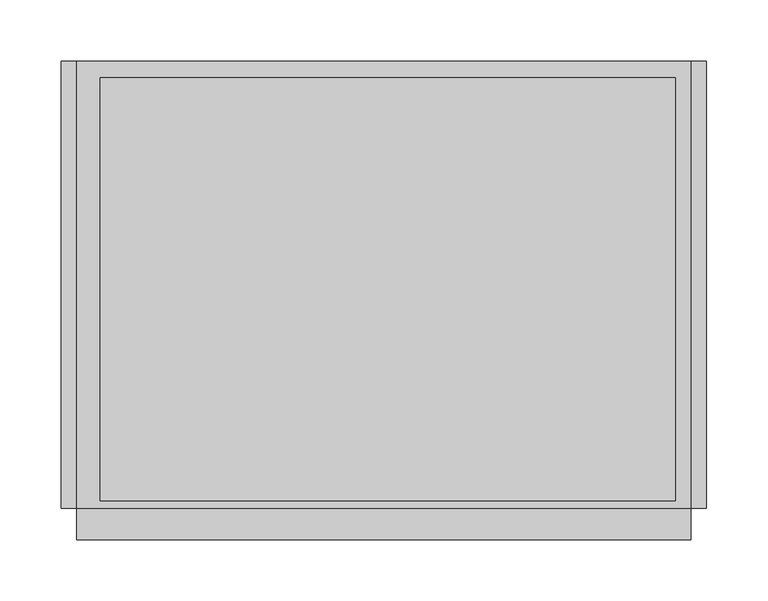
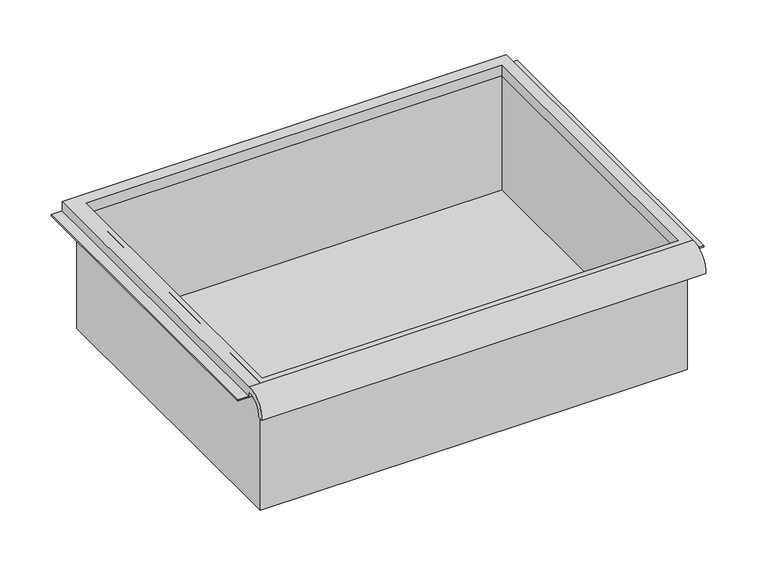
"""IFC4 building model written with IfcOpenShell, lengths in millimetres: furniture geometry."""

from ifc_helpers import new_model, si_unit, frame, origin, place, context, project, spatial, polyline, circle_curve, faceted_brep, source, transform, mapped, element, save
from ifc_brep_helpers import plane_surface, cylinder_surface, revolved_surface, advanced_brep


def furniture_4659394c(model_context):
    return source(origin(), model_context, "Body", "SolidModel", [
        advanced_brep(
        [(263.7474999, -195.297482, 510.3849518), (263.7474999, -188.9125, 510.3849518), (263.7474999, -169.8625, 528.646425), (263.7474999, -169.8625, 522.2964246), (263.7474999, 195.2625, 522.2964246), (263.7474999, 195.2625, 534.996425), (263.7474999, -169.8625, 534.996425), (-237.9025001, -195.297482, 510.3849518), (-237.9025001, -169.8625, 534.996425), (-237.9025001, 195.2625, 534.996425), (-237.9025001, 195.2625, 522.2964246), (-237.9025001, -169.8625, 522.2964246), (-237.9025001, -169.8625, 528.646425), (-237.9025001, -188.9125, 510.3849518), (251.0474878, 181.9275, 522.2964246), (-218.8095642, 181.9275, 522.2964246), (-218.8095642, -163.5125, 522.2964246), (251.0474878, -163.5125, 522.2964246), (-218.8095642, 181.9275, 534.996425), (251.0474878, 181.9275, 534.996425), (251.0474878, -163.5125, 534.996425), (-218.8095642, -163.5125, 534.996425)],
        [
            (0, 1),
            (1, 2, circle_curve(frame((263.7474999, -172.3404634, 512.1643622), z_axis=(-1.0, 0.0, 0.0), x_axis=(0.0, 1.0, 0.0)), 16.6672942)),
            (2, 3),
            (3, 4),
            (4, 5),
            (5, 6),
            (6, 0, circle_curve(frame((263.7474999, -172.4601678, 512.2322522), z_axis=(1.0, 0.0, 0.0), x_axis=(0.0, 1.0, 0.0)), 22.9119061)),
            (7, 8, circle_curve(frame((-237.9025001, -172.4601678, 512.2322522), z_axis=(-1.0, 0.0, 0.0), x_axis=(0.0, 1.0, 0.0)), 22.9119061)),
            (8, 9),
            (9, 10),
            (10, 11),
            (11, 12),
            (12, 13, circle_curve(frame((-237.9025001, -172.3404634, 512.1643622), z_axis=(1.0, 0.0, 0.0), x_axis=(0.0, 1.0, 0.0)), 16.6672942)),
            (13, 7),
            (0, 7),
            (13, 1),
            (12, 2),
            (11, 3),
            (10, 4),
            (14, 15),
            (15, 16),
            (16, 17),
            (17, 14),
            (9, 5),
            (8, 6),
            (18, 19),
            (19, 20),
            (20, 21),
            (21, 18),
            (14, 19),
            (18, 15),
            (21, 16),
            (20, 17),
        ],
        [
            plane_surface(frame((263.7474999, -195.297482, 510.3849518), z_axis=(1.0, 0.0, 0.0), x_axis=(0.0, 1.0, 0.0))),
            plane_surface(frame((-237.9025001, -195.297482, 510.3849518), z_axis=(-1.0, 0.0, 0.0), x_axis=(0.0, -1.0, 0.0))),
            plane_surface(frame((263.7474999, -195.297482, 510.3849518), z_axis=(0.0, 0.0, -1.0), x_axis=(-1.0, 0.0, 0.0))),
            revolved_surface(polyline([(-237.9025001, -155.67316920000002, 512.1643622), (263.7474999, -155.67316920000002, 512.1643622)]), (-237.9025001, -172.3404634, 512.1643622), (-1.0, 0.0, 0.0)),
            plane_surface(frame((263.7474999, -169.8625, 528.646425), z_axis=(0.0, -1.0, 0.0), x_axis=(-1.0, 0.0, 0.0))),
            plane_surface(frame((263.7474999, -169.8625, 522.2964246), z_axis=(0.0, 0.0, -1.0), x_axis=(-1.0, 0.0, 0.0))),
            plane_surface(frame((263.7474999, 195.2625, 522.2964246), z_axis=(0.0, 1.0, 0.0), x_axis=(-1.0, 0.0, 0.0))),
            plane_surface(frame((263.7474999, 195.2625, 534.996425), z_axis=(0.0, 0.0, 1.0), x_axis=(-1.0, 0.0, 0.0))),
            cylinder_surface(frame((-237.9025001, -172.4601678, 512.2322522), z_axis=(1.0, 0.0, 0.0), x_axis=(0.0, 1.0, 0.0)), 22.9119061),
            plane_surface(frame((251.0474878, 181.9275, 534.996425), z_axis=(0.0, -1.0, 0.0), x_axis=(0.0, 0.0, -1.0))),
            plane_surface(frame((-218.8095642, 181.9275, 534.996425), z_axis=(1.0, 0.0, 0.0), x_axis=(0.0, 0.0, -1.0))),
            plane_surface(frame((-218.8095642, -163.5125, 534.996425), z_axis=(0.0, 1.0, 0.0), x_axis=(0.0, 0.0, -1.0))),
            plane_surface(frame((251.0474878, -163.5125, 534.996425), z_axis=(-1.0, 0.0, 0.0), x_axis=(0.0, 0.0, -1.0))),
        ],
        [
            (0, [[1, 2, 3, 4, 5, 6, 7]]),
            (1, [[8, 9, 10, 11, 12, 13, 14]]),
            (2, [[-1, 15, -14, 16]]),
            (3, [[-2, -16, -13, 17]]),
            (4, [[-3, -17, -12, 18]]),
            (5, [[-4, -18, -11, 19], [20, 21, 22, 23]]),
            (6, [[-5, -19, -10, 24]]),
            (7, [[-6, -24, -9, 25], [26, 27, 28, 29]]),
            (8, [[-7, -25, -8, -15]]),
            (9, [[30, -26, 31, -20]]),
            (10, [[-31, -29, 32, -21]]),
            (11, [[-32, -28, 33, -22]]),
            (12, [[-30, -23, -33, -27]]),
        ],
    ),
        faceted_brep([(-225.2025001, -169.8625, 382.596425), (257.3974878, -169.8625, 382.596425), (257.3974878, -169.8625, 534.996425), (-225.2025001, -169.8625, 534.996425), (-225.2025001, 188.9125, 382.596425), (-225.2025001, 188.9125, 534.996425), (257.3974878, 188.9125, 534.996425), (257.3974878, 188.9125, 382.596425), (-218.8095642, 181.9275, 534.996425), (251.0474878, 181.9275, 534.996425), (251.0474878, -163.5125, 534.996425), (-218.8095642, -163.5125, 534.996425), (251.0474878, 181.9275, 385.771425), (-218.8095642, 181.9275, 385.771425), (-218.8095642, -163.5125, 385.771425), (251.0474878, -163.5125, 385.771425)], [[[0, 1, 2, 3]], [[4, 5, 6, 7]], [[1, 0, 4, 7]], [[2, 1, 7, 6]], [[3, 2, 6, 5], [8, 9, 10, 11]], [[0, 3, 5, 4]], [[12, 13, 14, 15]], [[13, 12, 9, 8]], [[14, 13, 8, 11]], [[15, 14, 11, 10]], [[12, 15, 10, 9]]]),
        faceted_brep([(-250.6025001, 195.2625, 522.2964246), (-250.6025001, 195.2625, 523.8839246), (-231.5525001, 195.2625, 523.8839246), (-231.5525001, 195.2625, 522.2964246), (-250.6025001, -169.8625, 522.2964246), (-231.5525001, -169.8625, 522.2964246), (-231.5525001, -169.8625, 523.8839246), (-250.6025001, -169.8625, 523.8839246)], [[[0, 1, 2, 3]], [[4, 5, 6, 7]], [[1, 0, 4, 7]], [[2, 1, 7, 6]], [[3, 2, 6, 5]], [[0, 3, 5, 4]]]),
        faceted_brep([(276.4474999, 195.2625, 522.2964246), (263.7474999, 195.2625, 522.2964246), (263.7474999, 195.2625, 523.8839246), (276.4474999, 195.2625, 523.8839246), (276.4474999, -169.8625, 522.2964246), (276.4474999, -169.8625, 523.8839246), (263.7474999, -169.8625, 523.8839246), (263.7474999, -169.8625, 522.2964246)], [[[0, 1, 2, 3]], [[4, 5, 6, 7]], [[1, 0, 4, 7]], [[2, 1, 7, 6]], [[3, 2, 6, 5]], [[0, 3, 5, 4]]]),
    ])


if __name__ == "__main__":
    model = new_model("IFC4")
    model_context = context("Model", 3, world=origin())
    ifc_project = project(units=[si_unit("LENGTHUNIT", "METRE", prefix="MILLI")], contexts=[model_context])
    site = spatial("IfcSite", under=ifc_project)
    building = spatial("IfcBuilding", under=site)
    placement = place(None, origin())
    furniture_shape = furniture_4659394c(model_context)
    element("IfcFurniture", 1, ObjectType="HermanMiller_Carts_CT501_Drawer : 6\"H x 15\"D x 20\"W", at=placement, inside=building, context=model_context, shape_type="MappedRepresentation", body=[
        mapped(furniture_shape, transform((0.0, 0.0, 0.0), x_axis=(1.0, 0.0, 0.0), y_axis=(0.0, 1.0, 0.0), z_axis=(0.0, 0.0, 1.0))),
    ])
    save(model, "model.ifc")
